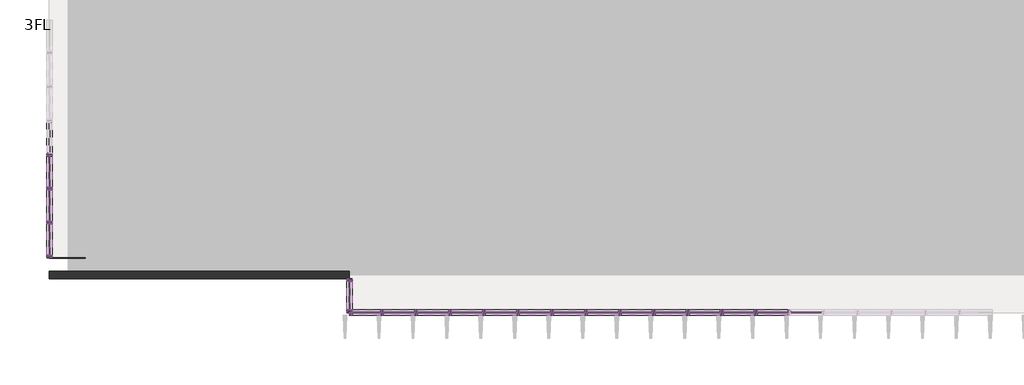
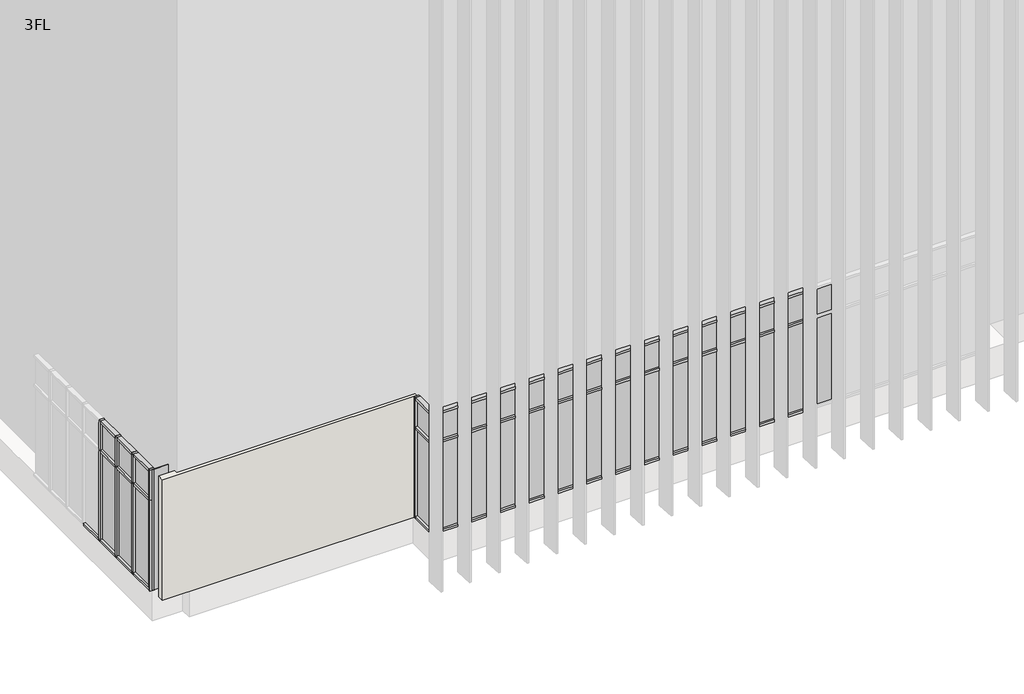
# One storey, part 1 of 5: 91 members, 38 plates, 1 wall.
"""IFC4 building model written with IfcOpenShell, lengths in millimetres."""

from ifc_helpers import new_model, si_unit, frame, origin, place, context, project, spatial, polyline, outline, extrude, transform, mapped, element, save
from components import member_70x150_cdd4dcf9, member_70x150_9a135ce4, member_70x150_66cf63de, member_70x150_26475b18, member_70x150_ad4265bc, member_70x150_e0eddb57, member_70x150_1b280ac3, member_70x150_76429c73, plate_d1366ea1, plate_ab860a3c, plate_28587fd3, plate_4b01b467, plate_396bcf3c, plate_83f08a3e

model = new_model("IFC4")

# Units and contexts
model_context = context("Model", 3, world=origin())
ifc_project = project(units=[si_unit("LENGTHUNIT", "METRE", prefix="MILLI")], contexts=[model_context])

# Site, building, storey
site = spatial("IfcSite", under=ifc_project)
building = spatial("IfcBuilding", under=site)
storey = spatial("IfcBuildingStorey", under=building, Name="3FL", Elevation=8600.0)

# Members
placement = place(None, origin())
member_70x150_shape = member_70x150_cdd4dcf9(model_context)
element("IfcMember", 1, ObjectType="長方形のマリオン : 70x150", at=placement, inside=storey, context=model_context, shape_type="MappedRepresentation", body=[
    mapped(member_70x150_shape, transform((-20530.9784025, -4550.3131013, 8600.0), x_axis=(-1.0, 0.0, 0.0), y_axis=(0.0, 1.0, 0.0), z_axis=(0.0, 0.0, -1.0))),
])
element("IfcMember", 2, ObjectType="長方形のマリオン : 70x150", at=placement, inside=storey, context=model_context, shape_type="MappedRepresentation", body=[
    mapped(member_70x150_shape, transform((-19630.9784025, -4550.3131013, 8600.0), x_axis=(-1.0, 0.0, 0.0), y_axis=(0.0, 1.0, 0.0), z_axis=(0.0, 0.0, -1.0))),
])
element("IfcMember", 3, ObjectType="長方形のマリオン : 70x150", at=placement, inside=storey, context=model_context, shape_type="MappedRepresentation", body=[
    mapped(member_70x150_shape, transform((-18730.9784025, -4550.3131013, 8600.0), x_axis=(-1.0, 0.0, 0.0), y_axis=(0.0, 1.0, 0.0), z_axis=(0.0, 0.0, -1.0))),
])
element("IfcMember", 4, ObjectType="長方形のマリオン : 70x150", at=placement, inside=storey, context=model_context, shape_type="MappedRepresentation", body=[
    mapped(member_70x150_shape, transform((-17830.9784025, -4550.3131013, 8600.0), x_axis=(-1.0, 0.0, 0.0), y_axis=(0.0, 1.0, 0.0), z_axis=(0.0, 0.0, -1.0))),
])
element("IfcMember", 5, ObjectType="長方形のマリオン : 70x150", at=placement, inside=storey, context=model_context, shape_type="MappedRepresentation", body=[
    mapped(member_70x150_shape, transform((-16930.9784025, -4550.3131013, 8600.0), x_axis=(-1.0, 0.0, 0.0), y_axis=(0.0, 1.0, 0.0), z_axis=(0.0, 0.0, -1.0))),
])
element("IfcMember", 6, ObjectType="長方形のマリオン : 70x150", at=placement, inside=storey, context=model_context, shape_type="MappedRepresentation", body=[
    mapped(member_70x150_shape, transform((-16030.9784025, -4550.3131013, 8600.0), x_axis=(-1.0, 0.0, 0.0), y_axis=(0.0, 1.0, 0.0), z_axis=(0.0, 0.0, -1.0))),
])
element("IfcMember", 7, ObjectType="長方形のマリオン : 70x150", at=placement, inside=storey, context=model_context, shape_type="MappedRepresentation", body=[
    mapped(member_70x150_shape, transform((-15130.9784025, -4550.3131013, 8600.0), x_axis=(-1.0, 0.0, 0.0), y_axis=(0.0, 1.0, 0.0), z_axis=(0.0, 0.0, -1.0))),
])
element("IfcMember", 8, ObjectType="長方形のマリオン : 70x150", at=placement, inside=storey, context=model_context, shape_type="MappedRepresentation", body=[
    mapped(member_70x150_shape, transform((-14230.9784025, -4550.3131013, 8600.0), x_axis=(-1.0, 0.0, 0.0), y_axis=(0.0, 1.0, 0.0), z_axis=(0.0, 0.0, -1.0))),
])
element("IfcMember", 9, ObjectType="長方形のマリオン : 70x150", at=placement, inside=storey, context=model_context, shape_type="MappedRepresentation", body=[
    mapped(member_70x150_shape, transform((-13330.9784025, -4550.3131013, 8600.0), x_axis=(-1.0, 0.0, 0.0), y_axis=(0.0, 1.0, 0.0), z_axis=(0.0, 0.0, -1.0))),
])
element("IfcMember", 10, ObjectType="長方形のマリオン : 70x150", at=placement, inside=storey, context=model_context, shape_type="MappedRepresentation", body=[
    mapped(member_70x150_shape, transform((-12430.9784025, -4550.3131013, 8600.0), x_axis=(-1.0, 0.0, 0.0), y_axis=(0.0, 1.0, 0.0), z_axis=(0.0, 0.0, -1.0))),
])
element("IfcMember", 11, ObjectType="長方形のマリオン : 70x150", at=placement, inside=storey, context=model_context, shape_type="MappedRepresentation", body=[
    mapped(member_70x150_shape, transform((-11530.9784025, -4550.3131013, 8600.0), x_axis=(-1.0, 0.0, 0.0), y_axis=(0.0, 1.0, 0.0), z_axis=(0.0, 0.0, -1.0))),
])
element("IfcMember", 12, ObjectType="長方形のマリオン : 70x150", at=placement, inside=storey, context=model_context, shape_type="MappedRepresentation", body=[
    mapped(member_70x150_shape, transform((-10630.9784025, -4550.3131013, 8600.0), x_axis=(-1.0, 0.0, 0.0), y_axis=(0.0, 1.0, 0.0), z_axis=(0.0, 0.0, -1.0))),
])
element("IfcMember", 13, ObjectType="長方形のマリオン : 70x150", at=placement, inside=storey, context=model_context, shape_type="MappedRepresentation", body=[
    mapped(member_70x150_shape, transform((-29345.9784025, -365.3131013, 8600.0), x_axis=(0.0, 1.0, 0.0), y_axis=(1.0, 0.0, 0.0), z_axis=(0.0, 0.0, -1.0))),
])
element("IfcMember", 14, ObjectType="長方形のマリオン : 70x150", at=placement, inside=storey, context=model_context, shape_type="MappedRepresentation", body=[
    mapped(member_70x150_shape, transform((-29345.9784025, -1265.3131013, 8600.0), x_axis=(0.0, 1.0, 0.0), y_axis=(1.0, 0.0, 0.0), z_axis=(0.0, 0.0, -1.0))),
])
element("IfcMember", 15, ObjectType="長方形のマリオン : 70x150", at=placement, inside=storey, context=model_context, shape_type="MappedRepresentation", body=[
    mapped(member_70x150_shape, transform((-29345.9784025, -2165.3131013, 8600.0), x_axis=(0.0, 1.0, 0.0), y_axis=(1.0, 0.0, 0.0), z_axis=(0.0, 0.0, -1.0))),
])
member_70x150_2_shape = member_70x150_9a135ce4(model_context)
element("IfcMember", 16, ObjectType="長方形のマリオン : 70x150", at=placement, inside=storey, context=model_context, shape_type="MappedRepresentation", body=[
    mapped(member_70x150_2_shape, transform((-21325.9784025, -4550.3131013, 12600.0), x_axis=(0.0, 0.0, 1.0), y_axis=(0.0, 1.0, 0.0), z_axis=(-1.0, 0.0, 0.0))),
])
element("IfcMember", 17, ObjectType="長方形のマリオン : 70x150", at=placement, inside=storey, context=model_context, shape_type="MappedRepresentation", body=[
    mapped(member_70x150_2_shape, transform((-21395.9784025, -3720.3131013, 12600.0), x_axis=(0.0, 0.0, 1.0), y_axis=(1.0, 0.0, 0.0), z_axis=(0.0, 1.0, 0.0))),
])
member_70x150_3_shape = member_70x150_66cf63de(model_context)
element("IfcMember", 18, ObjectType="長方形のマリオン : 70x150", at=placement, inside=storey, context=model_context, shape_type="MappedRepresentation", body=[
    mapped(member_70x150_3_shape, transform((-9765.9784025, -4550.3131013, 8600.0), x_axis=(0.0, 0.0, -1.0), y_axis=(0.0, 1.0, 0.0), z_axis=(1.0, 0.0, 0.0))),
])
element("IfcMember", 19, ObjectType="長方形のマリオン : 70x150", at=placement, inside=storey, context=model_context, shape_type="MappedRepresentation", body=[
    mapped(member_70x150_3_shape, transform((-11565.9784025, -4550.3131013, 8600.0), x_axis=(0.0, 0.0, -1.0), y_axis=(0.0, 1.0, 0.0), z_axis=(1.0, 0.0, 0.0))),
])
element("IfcMember", 20, ObjectType="長方形のマリオン : 70x150", at=placement, inside=storey, context=model_context, shape_type="MappedRepresentation", body=[
    mapped(member_70x150_3_shape, transform((-14265.9784025, -4550.3131013, 8600.0), x_axis=(0.0, 0.0, -1.0), y_axis=(0.0, 1.0, 0.0), z_axis=(1.0, 0.0, 0.0))),
])
element("IfcMember", 21, ObjectType="長方形のマリオン : 70x150", at=placement, inside=storey, context=model_context, shape_type="MappedRepresentation", body=[
    mapped(member_70x150_3_shape, transform((-15165.9784025, -4550.3131013, 8600.0), x_axis=(0.0, 0.0, -1.0), y_axis=(0.0, 1.0, 0.0), z_axis=(1.0, 0.0, 0.0))),
])
element("IfcMember", 22, ObjectType="長方形のマリオン : 70x150", at=placement, inside=storey, context=model_context, shape_type="MappedRepresentation", body=[
    mapped(member_70x150_3_shape, transform((-10665.9784025, -4550.3131013, 8600.0), x_axis=(0.0, 0.0, -1.0), y_axis=(0.0, 1.0, 0.0), z_axis=(1.0, 0.0, 0.0))),
])
element("IfcMember", 23, ObjectType="長方形のマリオン : 70x150", at=placement, inside=storey, context=model_context, shape_type="MappedRepresentation", body=[
    mapped(member_70x150_3_shape, transform((-13365.9784025, -4550.3131013, 8600.0), x_axis=(0.0, 0.0, -1.0), y_axis=(0.0, 1.0, 0.0), z_axis=(1.0, 0.0, 0.0))),
])
element("IfcMember", 24, ObjectType="長方形のマリオン : 70x150", at=placement, inside=storey, context=model_context, shape_type="MappedRepresentation", body=[
    mapped(member_70x150_3_shape, transform((-16065.9784025, -4550.3131013, 8600.0), x_axis=(0.0, 0.0, -1.0), y_axis=(0.0, 1.0, 0.0), z_axis=(1.0, 0.0, 0.0))),
])
element("IfcMember", 25, ObjectType="長方形のマリオン : 70x150", at=placement, inside=storey, context=model_context, shape_type="MappedRepresentation", body=[
    mapped(member_70x150_3_shape, transform((-12465.9784025, -4550.3131013, 8600.0), x_axis=(0.0, 0.0, -1.0), y_axis=(0.0, 1.0, 0.0), z_axis=(1.0, 0.0, 0.0))),
])
element("IfcMember", 26, ObjectType="長方形のマリオン : 70x150", at=placement, inside=storey, context=model_context, shape_type="MappedRepresentation", body=[
    mapped(member_70x150_3_shape, transform((-19665.9784025, -4550.3131013, 8600.0), x_axis=(0.0, 0.0, -1.0), y_axis=(0.0, 1.0, 0.0), z_axis=(1.0, 0.0, 0.0))),
])
element("IfcMember", 27, ObjectType="長方形のマリオン : 70x150", at=placement, inside=storey, context=model_context, shape_type="MappedRepresentation", body=[
    mapped(member_70x150_3_shape, transform((-18765.9784025, -4550.3131013, 8600.0), x_axis=(0.0, 0.0, -1.0), y_axis=(0.0, 1.0, 0.0), z_axis=(1.0, 0.0, 0.0))),
])
element("IfcMember", 28, ObjectType="長方形のマリオン : 70x150", at=placement, inside=storey, context=model_context, shape_type="MappedRepresentation", body=[
    mapped(member_70x150_3_shape, transform((-17865.9784025, -4550.3131013, 8600.0), x_axis=(0.0, 0.0, -1.0), y_axis=(0.0, 1.0, 0.0), z_axis=(1.0, 0.0, 0.0))),
])
element("IfcMember", 29, ObjectType="長方形のマリオン : 70x150", at=placement, inside=storey, context=model_context, shape_type="MappedRepresentation", body=[
    mapped(member_70x150_3_shape, transform((-16965.9784025, -4550.3131013, 8600.0), x_axis=(0.0, 0.0, -1.0), y_axis=(0.0, 1.0, 0.0), z_axis=(1.0, 0.0, 0.0))),
])
element("IfcMember", 30, ObjectType="長方形のマリオン : 70x150", at=placement, inside=storey, context=model_context, shape_type="MappedRepresentation", body=[
    mapped(member_70x150_3_shape, transform((-29345.9784025, -3030.3131013, 8600.0), x_axis=(0.0, 0.0, -1.0), y_axis=(1.0, 0.0, 0.0), z_axis=(0.0, -1.0, 0.0))),
])
element("IfcMember", 31, ObjectType="長方形のマリオン : 70x150", at=placement, inside=storey, context=model_context, shape_type="MappedRepresentation", body=[
    mapped(member_70x150_3_shape, transform((-29345.9784025, -330.3131013, 8600.0), x_axis=(0.0, 0.0, -1.0), y_axis=(1.0, 0.0, 0.0), z_axis=(0.0, -1.0, 0.0))),
])
element("IfcMember", 32, ObjectType="長方形のマリオン : 70x150", at=placement, inside=storey, context=model_context, shape_type="MappedRepresentation", body=[
    mapped(member_70x150_3_shape, transform((-29345.9784025, -1230.3131013, 8600.0), x_axis=(0.0, 0.0, -1.0), y_axis=(1.0, 0.0, 0.0), z_axis=(0.0, -1.0, 0.0))),
])
element("IfcMember", 33, ObjectType="長方形のマリオン : 70x150", at=placement, inside=storey, context=model_context, shape_type="MappedRepresentation", body=[
    mapped(member_70x150_3_shape, transform((-29345.9784025, -2130.3131013, 8600.0), x_axis=(0.0, 0.0, -1.0), y_axis=(1.0, 0.0, 0.0), z_axis=(0.0, -1.0, 0.0))),
])
element("IfcMember", 34, ObjectType="長方形のマリオン : 70x150", at=placement, inside=storey, context=model_context, shape_type="MappedRepresentation", body=[
    mapped(member_70x150_3_shape, transform((-20495.9784025, -4550.3131013, 12600.0), x_axis=(0.0, 0.0, 1.0), y_axis=(0.0, 1.0, 0.0), z_axis=(-1.0, 0.0, 0.0))),
])
element("IfcMember", 35, ObjectType="長方形のマリオン : 70x150", at=placement, inside=storey, context=model_context, shape_type="MappedRepresentation", body=[
    mapped(member_70x150_3_shape, transform((-19595.9784025, -4550.3131013, 12600.0), x_axis=(0.0, 0.0, 1.0), y_axis=(0.0, 1.0, 0.0), z_axis=(-1.0, 0.0, 0.0))),
])
element("IfcMember", 36, ObjectType="長方形のマリオン : 70x150", at=placement, inside=storey, context=model_context, shape_type="MappedRepresentation", body=[
    mapped(member_70x150_3_shape, transform((-18695.9784025, -4550.3131013, 12600.0), x_axis=(0.0, 0.0, 1.0), y_axis=(0.0, 1.0, 0.0), z_axis=(-1.0, 0.0, 0.0))),
])
element("IfcMember", 37, ObjectType="長方形のマリオン : 70x150", at=placement, inside=storey, context=model_context, shape_type="MappedRepresentation", body=[
    mapped(member_70x150_3_shape, transform((-17795.9784025, -4550.3131013, 12600.0), x_axis=(0.0, 0.0, 1.0), y_axis=(0.0, 1.0, 0.0), z_axis=(-1.0, 0.0, 0.0))),
])
element("IfcMember", 38, ObjectType="長方形のマリオン : 70x150", at=placement, inside=storey, context=model_context, shape_type="MappedRepresentation", body=[
    mapped(member_70x150_3_shape, transform((-16895.9784025, -4550.3131013, 12600.0), x_axis=(0.0, 0.0, 1.0), y_axis=(0.0, 1.0, 0.0), z_axis=(-1.0, 0.0, 0.0))),
])
element("IfcMember", 39, ObjectType="長方形のマリオン : 70x150", at=placement, inside=storey, context=model_context, shape_type="MappedRepresentation", body=[
    mapped(member_70x150_3_shape, transform((-15995.9784025, -4550.3131013, 12600.0), x_axis=(0.0, 0.0, 1.0), y_axis=(0.0, 1.0, 0.0), z_axis=(-1.0, 0.0, 0.0))),
])
element("IfcMember", 40, ObjectType="長方形のマリオン : 70x150", at=placement, inside=storey, context=model_context, shape_type="MappedRepresentation", body=[
    mapped(member_70x150_3_shape, transform((-15095.9784025, -4550.3131013, 12600.0), x_axis=(0.0, 0.0, 1.0), y_axis=(0.0, 1.0, 0.0), z_axis=(-1.0, 0.0, 0.0))),
])
element("IfcMember", 41, ObjectType="長方形のマリオン : 70x150", at=placement, inside=storey, context=model_context, shape_type="MappedRepresentation", body=[
    mapped(member_70x150_3_shape, transform((-14195.9784025, -4550.3131013, 12600.0), x_axis=(0.0, 0.0, 1.0), y_axis=(0.0, 1.0, 0.0), z_axis=(-1.0, 0.0, 0.0))),
])
element("IfcMember", 42, ObjectType="長方形のマリオン : 70x150", at=placement, inside=storey, context=model_context, shape_type="MappedRepresentation", body=[
    mapped(member_70x150_3_shape, transform((-13295.9784025, -4550.3131013, 12600.0), x_axis=(0.0, 0.0, 1.0), y_axis=(0.0, 1.0, 0.0), z_axis=(-1.0, 0.0, 0.0))),
])
element("IfcMember", 43, ObjectType="長方形のマリオン : 70x150", at=placement, inside=storey, context=model_context, shape_type="MappedRepresentation", body=[
    mapped(member_70x150_3_shape, transform((-12395.9784025, -4550.3131013, 12600.0), x_axis=(0.0, 0.0, 1.0), y_axis=(0.0, 1.0, 0.0), z_axis=(-1.0, 0.0, 0.0))),
])
element("IfcMember", 44, ObjectType="長方形のマリオン : 70x150", at=placement, inside=storey, context=model_context, shape_type="MappedRepresentation", body=[
    mapped(member_70x150_3_shape, transform((-11495.9784025, -4550.3131013, 12600.0), x_axis=(0.0, 0.0, 1.0), y_axis=(0.0, 1.0, 0.0), z_axis=(-1.0, 0.0, 0.0))),
])
element("IfcMember", 45, ObjectType="長方形のマリオン : 70x150", at=placement, inside=storey, context=model_context, shape_type="MappedRepresentation", body=[
    mapped(member_70x150_3_shape, transform((-10595.9784025, -4550.3131013, 12600.0), x_axis=(0.0, 0.0, 1.0), y_axis=(0.0, 1.0, 0.0), z_axis=(-1.0, 0.0, 0.0))),
])
element("IfcMember", 46, ObjectType="長方形のマリオン : 70x150", at=placement, inside=storey, context=model_context, shape_type="MappedRepresentation", body=[
    mapped(member_70x150_3_shape, transform((-29345.9784025, -400.3131013, 12600.0), x_axis=(0.0, 0.0, 1.0), y_axis=(1.0, 0.0, 0.0), z_axis=(0.0, 1.0, 0.0))),
])
element("IfcMember", 47, ObjectType="長方形のマリオン : 70x150", at=placement, inside=storey, context=model_context, shape_type="MappedRepresentation", body=[
    mapped(member_70x150_3_shape, transform((-29345.9784025, -1300.3131013, 12600.0), x_axis=(0.0, 0.0, 1.0), y_axis=(1.0, 0.0, 0.0), z_axis=(0.0, 1.0, 0.0))),
])
element("IfcMember", 48, ObjectType="長方形のマリオン : 70x150", at=placement, inside=storey, context=model_context, shape_type="MappedRepresentation", body=[
    mapped(member_70x150_3_shape, transform((-29345.9784025, -2200.3131013, 12600.0), x_axis=(0.0, 0.0, 1.0), y_axis=(1.0, 0.0, 0.0), z_axis=(0.0, 1.0, 0.0))),
])
element("IfcMember", 49, ObjectType="長方形のマリオン : 70x150", at=placement, inside=storey, context=model_context, shape_type="MappedRepresentation", body=[
    mapped(member_70x150_2_shape, transform((-20565.9784025, -4550.3131013, 8600.0), x_axis=(0.0, 0.0, -1.0), y_axis=(0.0, 1.0, 0.0), z_axis=(1.0, 0.0, 0.0))),
])
element("IfcMember", 50, ObjectType="長方形のマリオン : 70x150", at=placement, inside=storey, context=model_context, shape_type="MappedRepresentation", body=[
    mapped(member_70x150_2_shape, transform((-21395.9784025, -4480.3131013, 8600.0), x_axis=(0.0, 0.0, -1.0), y_axis=(1.0, 0.0, 0.0), z_axis=(0.0, -1.0, 0.0))),
])
member_70x150_4_shape = member_70x150_26475b18(model_context)
element("IfcMember", 51, ObjectType="長方形のマリオン : 70x150", at=placement, inside=storey, context=model_context, shape_type="MappedRepresentation", body=[
    mapped(member_70x150_4_shape, transform((-20530.9784025, -4550.3131013, 11600.0), x_axis=(-1.0, 0.0, 0.0), y_axis=(0.0, 1.0, 0.0), z_axis=(0.0, 0.0, -1.0))),
])
element("IfcMember", 52, ObjectType="長方形のマリオン : 70x150", at=placement, inside=storey, context=model_context, shape_type="MappedRepresentation", body=[
    mapped(member_70x150_4_shape, transform((-19630.9784025, -4550.3131013, 11600.0), x_axis=(-1.0, 0.0, 0.0), y_axis=(0.0, 1.0, 0.0), z_axis=(0.0, 0.0, -1.0))),
])
element("IfcMember", 53, ObjectType="長方形のマリオン : 70x150", at=placement, inside=storey, context=model_context, shape_type="MappedRepresentation", body=[
    mapped(member_70x150_4_shape, transform((-18730.9784025, -4550.3131013, 11600.0), x_axis=(-1.0, 0.0, 0.0), y_axis=(0.0, 1.0, 0.0), z_axis=(0.0, 0.0, -1.0))),
])
element("IfcMember", 54, ObjectType="長方形のマリオン : 70x150", at=placement, inside=storey, context=model_context, shape_type="MappedRepresentation", body=[
    mapped(member_70x150_4_shape, transform((-17830.9784025, -4550.3131013, 11600.0), x_axis=(-1.0, 0.0, 0.0), y_axis=(0.0, 1.0, 0.0), z_axis=(0.0, 0.0, -1.0))),
])
element("IfcMember", 55, ObjectType="長方形のマリオン : 70x150", at=placement, inside=storey, context=model_context, shape_type="MappedRepresentation", body=[
    mapped(member_70x150_4_shape, transform((-16930.9784025, -4550.3131013, 11600.0), x_axis=(-1.0, 0.0, 0.0), y_axis=(0.0, 1.0, 0.0), z_axis=(0.0, 0.0, -1.0))),
])
element("IfcMember", 56, ObjectType="長方形のマリオン : 70x150", at=placement, inside=storey, context=model_context, shape_type="MappedRepresentation", body=[
    mapped(member_70x150_4_shape, transform((-16030.9784025, -4550.3131013, 11600.0), x_axis=(-1.0, 0.0, 0.0), y_axis=(0.0, 1.0, 0.0), z_axis=(0.0, 0.0, -1.0))),
])
element("IfcMember", 57, ObjectType="長方形のマリオン : 70x150", at=placement, inside=storey, context=model_context, shape_type="MappedRepresentation", body=[
    mapped(member_70x150_4_shape, transform((-15130.9784025, -4550.3131013, 11600.0), x_axis=(-1.0, 0.0, 0.0), y_axis=(0.0, 1.0, 0.0), z_axis=(0.0, 0.0, -1.0))),
])
element("IfcMember", 58, ObjectType="長方形のマリオン : 70x150", at=placement, inside=storey, context=model_context, shape_type="MappedRepresentation", body=[
    mapped(member_70x150_4_shape, transform((-14230.9784025, -4550.3131013, 11600.0), x_axis=(-1.0, 0.0, 0.0), y_axis=(0.0, 1.0, 0.0), z_axis=(0.0, 0.0, -1.0))),
])
element("IfcMember", 59, ObjectType="長方形のマリオン : 70x150", at=placement, inside=storey, context=model_context, shape_type="MappedRepresentation", body=[
    mapped(member_70x150_4_shape, transform((-13330.9784025, -4550.3131013, 11600.0), x_axis=(-1.0, 0.0, 0.0), y_axis=(0.0, 1.0, 0.0), z_axis=(0.0, 0.0, -1.0))),
])
element("IfcMember", 60, ObjectType="長方形のマリオン : 70x150", at=placement, inside=storey, context=model_context, shape_type="MappedRepresentation", body=[
    mapped(member_70x150_4_shape, transform((-12430.9784025, -4550.3131013, 11600.0), x_axis=(-1.0, 0.0, 0.0), y_axis=(0.0, 1.0, 0.0), z_axis=(0.0, 0.0, -1.0))),
])
element("IfcMember", 61, ObjectType="長方形のマリオン : 70x150", at=placement, inside=storey, context=model_context, shape_type="MappedRepresentation", body=[
    mapped(member_70x150_4_shape, transform((-11530.9784025, -4550.3131013, 11600.0), x_axis=(-1.0, 0.0, 0.0), y_axis=(0.0, 1.0, 0.0), z_axis=(0.0, 0.0, -1.0))),
])
element("IfcMember", 62, ObjectType="長方形のマリオン : 70x150", at=placement, inside=storey, context=model_context, shape_type="MappedRepresentation", body=[
    mapped(member_70x150_4_shape, transform((-10630.9784025, -4550.3131013, 11600.0), x_axis=(-1.0, 0.0, 0.0), y_axis=(0.0, 1.0, 0.0), z_axis=(0.0, 0.0, -1.0))),
])
element("IfcMember", 63, ObjectType="長方形のマリオン : 70x150", at=placement, inside=storey, context=model_context, shape_type="MappedRepresentation", body=[
    mapped(member_70x150_4_shape, transform((-9730.9784025, -4550.3131013, 11600.0), x_axis=(-1.0, 0.0, 0.0), y_axis=(0.0, 1.0, 0.0), z_axis=(0.0, 0.0, -1.0))),
])
element("IfcMember", 64, ObjectType="長方形のマリオン : 70x150", at=placement, inside=storey, context=model_context, shape_type="MappedRepresentation", body=[
    mapped(member_70x150_4_shape, transform((-29345.9784025, -365.3131013, 11600.0), x_axis=(0.0, 1.0, 0.0), y_axis=(1.0, 0.0, 0.0), z_axis=(0.0, 0.0, -1.0))),
])
element("IfcMember", 65, ObjectType="長方形のマリオン : 70x150", at=placement, inside=storey, context=model_context, shape_type="MappedRepresentation", body=[
    mapped(member_70x150_4_shape, transform((-29345.9784025, -1265.3131013, 11600.0), x_axis=(0.0, 1.0, 0.0), y_axis=(1.0, 0.0, 0.0), z_axis=(0.0, 0.0, -1.0))),
])
element("IfcMember", 66, ObjectType="長方形のマリオン : 70x150", at=placement, inside=storey, context=model_context, shape_type="MappedRepresentation", body=[
    mapped(member_70x150_4_shape, transform((-29345.9784025, -2165.3131013, 11600.0), x_axis=(0.0, 1.0, 0.0), y_axis=(1.0, 0.0, 0.0), z_axis=(0.0, 0.0, -1.0))),
])
member_70x150_5_shape = member_70x150_ad4265bc(model_context)
element("IfcMember", 67, ObjectType="長方形のマリオン : 70x150", at=placement, inside=storey, context=model_context, shape_type="MappedRepresentation", body=[
    mapped(member_70x150_5_shape, transform((-20495.9784025, -4550.3131013, 11600.0), x_axis=(0.0, 0.0, 1.0), y_axis=(0.0, 1.0, 0.0), z_axis=(-1.0, 0.0, 0.0))),
])
element("IfcMember", 68, ObjectType="長方形のマリオン : 70x150", at=placement, inside=storey, context=model_context, shape_type="MappedRepresentation", body=[
    mapped(member_70x150_5_shape, transform((-19595.9784025, -4550.3131013, 11600.0), x_axis=(0.0, 0.0, 1.0), y_axis=(0.0, 1.0, 0.0), z_axis=(-1.0, 0.0, 0.0))),
])
element("IfcMember", 69, ObjectType="長方形のマリオン : 70x150", at=placement, inside=storey, context=model_context, shape_type="MappedRepresentation", body=[
    mapped(member_70x150_5_shape, transform((-18695.9784025, -4550.3131013, 11600.0), x_axis=(0.0, 0.0, 1.0), y_axis=(0.0, 1.0, 0.0), z_axis=(-1.0, 0.0, 0.0))),
])
element("IfcMember", 70, ObjectType="長方形のマリオン : 70x150", at=placement, inside=storey, context=model_context, shape_type="MappedRepresentation", body=[
    mapped(member_70x150_5_shape, transform((-17795.9784025, -4550.3131013, 11600.0), x_axis=(0.0, 0.0, 1.0), y_axis=(0.0, 1.0, 0.0), z_axis=(-1.0, 0.0, 0.0))),
])
element("IfcMember", 71, ObjectType="長方形のマリオン : 70x150", at=placement, inside=storey, context=model_context, shape_type="MappedRepresentation", body=[
    mapped(member_70x150_5_shape, transform((-16895.9784025, -4550.3131013, 11600.0), x_axis=(0.0, 0.0, 1.0), y_axis=(0.0, 1.0, 0.0), z_axis=(-1.0, 0.0, 0.0))),
])
element("IfcMember", 72, ObjectType="長方形のマリオン : 70x150", at=placement, inside=storey, context=model_context, shape_type="MappedRepresentation", body=[
    mapped(member_70x150_5_shape, transform((-15995.9784025, -4550.3131013, 11600.0), x_axis=(0.0, 0.0, 1.0), y_axis=(0.0, 1.0, 0.0), z_axis=(-1.0, 0.0, 0.0))),
])
element("IfcMember", 73, ObjectType="長方形のマリオン : 70x150", at=placement, inside=storey, context=model_context, shape_type="MappedRepresentation", body=[
    mapped(member_70x150_5_shape, transform((-15095.9784025, -4550.3131013, 11600.0), x_axis=(0.0, 0.0, 1.0), y_axis=(0.0, 1.0, 0.0), z_axis=(-1.0, 0.0, 0.0))),
])
element("IfcMember", 74, ObjectType="長方形のマリオン : 70x150", at=placement, inside=storey, context=model_context, shape_type="MappedRepresentation", body=[
    mapped(member_70x150_5_shape, transform((-14195.9784025, -4550.3131013, 11600.0), x_axis=(0.0, 0.0, 1.0), y_axis=(0.0, 1.0, 0.0), z_axis=(-1.0, 0.0, 0.0))),
])
element("IfcMember", 75, ObjectType="長方形のマリオン : 70x150", at=placement, inside=storey, context=model_context, shape_type="MappedRepresentation", body=[
    mapped(member_70x150_5_shape, transform((-13295.9784025, -4550.3131013, 11600.0), x_axis=(0.0, 0.0, 1.0), y_axis=(0.0, 1.0, 0.0), z_axis=(-1.0, 0.0, 0.0))),
])
element("IfcMember", 76, ObjectType="長方形のマリオン : 70x150", at=placement, inside=storey, context=model_context, shape_type="MappedRepresentation", body=[
    mapped(member_70x150_5_shape, transform((-12395.9784025, -4550.3131013, 11600.0), x_axis=(0.0, 0.0, 1.0), y_axis=(0.0, 1.0, 0.0), z_axis=(-1.0, 0.0, 0.0))),
])
element("IfcMember", 77, ObjectType="長方形のマリオン : 70x150", at=placement, inside=storey, context=model_context, shape_type="MappedRepresentation", body=[
    mapped(member_70x150_5_shape, transform((-11495.9784025, -4550.3131013, 11600.0), x_axis=(0.0, 0.0, 1.0), y_axis=(0.0, 1.0, 0.0), z_axis=(-1.0, 0.0, 0.0))),
])
element("IfcMember", 78, ObjectType="長方形のマリオン : 70x150", at=placement, inside=storey, context=model_context, shape_type="MappedRepresentation", body=[
    mapped(member_70x150_5_shape, transform((-10595.9784025, -4550.3131013, 11600.0), x_axis=(0.0, 0.0, 1.0), y_axis=(0.0, 1.0, 0.0), z_axis=(-1.0, 0.0, 0.0))),
])
element("IfcMember", 79, ObjectType="長方形のマリオン : 70x150", at=placement, inside=storey, context=model_context, shape_type="MappedRepresentation", body=[
    mapped(member_70x150_5_shape, transform((-29345.9784025, -1300.3131013, 11600.0), x_axis=(0.0, 0.0, 1.0), y_axis=(1.0, 0.0, 0.0), z_axis=(0.0, 1.0, 0.0))),
])
element("IfcMember", 80, ObjectType="長方形のマリオン : 70x150", at=placement, inside=storey, context=model_context, shape_type="MappedRepresentation", body=[
    mapped(member_70x150_5_shape, transform((-29345.9784025, -2200.3131013, 11600.0), x_axis=(0.0, 0.0, 1.0), y_axis=(1.0, 0.0, 0.0), z_axis=(0.0, 1.0, 0.0))),
])
element("IfcMember", 81, ObjectType="長方形のマリオン : 70x150", at=placement, inside=storey, context=model_context, shape_type="MappedRepresentation", body=[
    mapped(member_70x150_5_shape, transform((-29345.9784025, -400.3131013, 11600.0), x_axis=(0.0, 0.0, 1.0), y_axis=(1.0, 0.0, 0.0), z_axis=(0.0, 1.0, 0.0))),
])
member_70x150_6_shape = member_70x150_e0eddb57(model_context)
element("IfcMember", 82, ObjectType="長方形のマリオン : 70x150", at=placement, inside=storey, context=model_context, shape_type="MappedRepresentation", body=[
    mapped(member_70x150_6_shape, transform((-21325.9784025, -4550.3131013, 11600.0), x_axis=(0.0, 0.0, 1.0), y_axis=(0.0, 1.0, 0.0), z_axis=(-1.0, 0.0, 0.0))),
])
element("IfcMember", 83, ObjectType="長方形のマリオン : 70x150", at=placement, inside=storey, context=model_context, shape_type="MappedRepresentation", body=[
    mapped(member_70x150_6_shape, transform((-21395.9784025, -3720.3131013, 11600.0), x_axis=(0.0, 0.0, 1.0), y_axis=(1.0, 0.0, 0.0), z_axis=(0.0, 1.0, 0.0))),
])
member_70x150_7_shape = member_70x150_1b280ac3(model_context)
element("IfcMember", 84, ObjectType="長方形のマリオン : 70x150", at=placement, inside=storey, context=model_context, shape_type="MappedRepresentation", body=[
    mapped(member_70x150_7_shape, transform((-21395.9784025, -4550.3131013, 8600.0), x_axis=(-1.0, 0.0, 0.0), y_axis=(0.0, 1.0, 0.0), z_axis=(0.0, 0.0, -1.0))),
])
element("IfcMember", 85, ObjectType="長方形のマリオン : 70x150", at=placement, inside=storey, context=model_context, shape_type="MappedRepresentation", body=[
    mapped(member_70x150_7_shape, transform((-21395.9784025, -3650.3131013, 8600.0), x_axis=(0.0, 1.0, 0.0), y_axis=(1.0, 0.0, 0.0), z_axis=(0.0, 0.0, -1.0))),
])
member_70x150_8_shape = member_70x150_76429c73(model_context)
element("IfcMember", 86, ObjectType="長方形のマリオン : 70x150", at=placement, inside=storey, context=model_context, shape_type="MappedRepresentation", body=[
    mapped(member_70x150_8_shape, transform((-21395.9784025, -4550.3131013, 12600.0), x_axis=(0.0, -1.0, 0.0), y_axis=(1.0, 0.0, 0.0), z_axis=(0.0, 0.0, 1.0))),
])
element("IfcMember", 87, ObjectType="長方形のマリオン : 70x150", at=placement, inside=storey, context=model_context, shape_type="MappedRepresentation", body=[
    mapped(member_70x150_8_shape, transform((-29345.9784025, -3100.3131013, 12600.0), x_axis=(0.0, -1.0, 0.0), y_axis=(1.0, 0.0, 0.0), z_axis=(0.0, 0.0, 1.0))),
])
element("IfcMember", 88, ObjectType="長方形のマリオン : 70x150", at=placement, inside=storey, context=model_context, shape_type="MappedRepresentation", body=[
    mapped(member_70x150_8_shape, transform((-21395.9784025, -4550.3131013, 11600.0), x_axis=(-1.0, 0.0, 0.0), y_axis=(0.0, 1.0, 0.0), z_axis=(0.0, 0.0, -1.0))),
])
element("IfcMember", 89, ObjectType="長方形のマリオン : 70x150", at=placement, inside=storey, context=model_context, shape_type="MappedRepresentation", body=[
    mapped(member_70x150_8_shape, transform((-21395.9784025, -3650.3131013, 11600.0), x_axis=(0.0, 1.0, 0.0), y_axis=(1.0, 0.0, 0.0), z_axis=(0.0, 0.0, -1.0))),
])
element("IfcMember", 90, ObjectType="長方形のマリオン : 70x150", at=placement, inside=storey, context=model_context, shape_type="MappedRepresentation", body=[
    mapped(member_70x150_7_shape, transform((-21395.9784025, -4550.3131013, 11600.0), x_axis=(0.0, -1.0, 0.0), y_axis=(1.0, 0.0, 0.0), z_axis=(0.0, 0.0, 1.0))),
])
element("IfcMember", 91, ObjectType="長方形のマリオン : 70x150", at=placement, inside=storey, context=model_context, shape_type="MappedRepresentation", body=[
    mapped(member_70x150_7_shape, transform((-29345.9784025, -3100.3131013, 11600.0), x_axis=(0.0, -1.0, 0.0), y_axis=(1.0, 0.0, 0.0), z_axis=(0.0, 0.0, 1.0))),
])

# Plates
plate_shape = plate_d1366ea1(model_context)
element("IfcPlate", 92, ObjectType="システム パネル : 標準", at=placement, inside=storey, context=model_context, shape_type="MappedRepresentation", body=[
    mapped(plate_shape, transform((-28845.9784025, -3100.3131013, 8600.0), x_axis=(-1.0, 0.0, 0.0), y_axis=(0.0, -1.0, 0.0), z_axis=(0.0, 0.0, 1.0))),
])
plate_2_shape = plate_ab860a3c(model_context)
element("IfcPlate", 93, ObjectType="システム パネル : 標準", at=placement, inside=storey, context=model_context, shape_type="MappedRepresentation", body=[
    mapped(plate_2_shape, transform((-29320.9784025, -3100.3131013, 8600.0), x_axis=(-1.0, 0.0, 0.0), y_axis=(0.0, -1.0, 0.0), z_axis=(0.0, 0.0, 1.0))),
])
plate_3_shape = plate_28587fd3(model_context)
element("IfcPlate", 94, ObjectType="システム パネル : 標準", at=placement, inside=storey, context=model_context, shape_type="MappedRepresentation", body=[
    mapped(plate_3_shape, transform((-29345.9784025, -2615.3131013, 8670.0), x_axis=(0.0, 1.0, 0.0), y_axis=(-1.0, 0.0, 0.0), z_axis=(0.0, 0.0, 1.0))),
])
element("IfcPlate", 95, ObjectType="システム パネル : 標準", at=placement, inside=storey, context=model_context, shape_type="MappedRepresentation", body=[
    mapped(plate_3_shape, transform((-29345.9784025, -1715.3131013, 8670.0), x_axis=(0.0, 1.0, 0.0), y_axis=(-1.0, 0.0, 0.0), z_axis=(0.0, 0.0, 1.0))),
])
element("IfcPlate", 96, ObjectType="システム パネル : 標準", at=placement, inside=storey, context=model_context, shape_type="MappedRepresentation", body=[
    mapped(plate_3_shape, transform((-29345.9784025, -815.3131013, 8670.0), x_axis=(0.0, 1.0, 0.0), y_axis=(-1.0, 0.0, 0.0), z_axis=(0.0, 0.0, 1.0))),
])
element("IfcPlate", 97, ObjectType="システム パネル : 標準", at=placement, inside=storey, context=model_context, shape_type="MappedRepresentation", body=[
    mapped(plate_3_shape, transform((-9280.9784025, -4550.3131013, 8670.0), x_axis=(-1.0, 0.0, 0.0), y_axis=(0.0, -1.0, 0.0), z_axis=(0.0, 0.0, 1.0))),
])
element("IfcPlate", 98, ObjectType="システム パネル : 標準", at=placement, inside=storey, context=model_context, shape_type="MappedRepresentation", body=[
    mapped(plate_3_shape, transform((-10180.9784025, -4550.3131013, 8670.0), x_axis=(-1.0, 0.0, 0.0), y_axis=(0.0, -1.0, 0.0), z_axis=(0.0, 0.0, 1.0))),
])
element("IfcPlate", 99, ObjectType="システム パネル : 標準", at=placement, inside=storey, context=model_context, shape_type="MappedRepresentation", body=[
    mapped(plate_3_shape, transform((-11080.9784025, -4550.3131013, 8670.0), x_axis=(-1.0, 0.0, 0.0), y_axis=(0.0, -1.0, 0.0), z_axis=(0.0, 0.0, 1.0))),
])
element("IfcPlate", 100, ObjectType="システム パネル : 標準", at=placement, inside=storey, context=model_context, shape_type="MappedRepresentation", body=[
    mapped(plate_3_shape, transform((-11980.9784025, -4550.3131013, 8670.0), x_axis=(-1.0, 0.0, 0.0), y_axis=(0.0, -1.0, 0.0), z_axis=(0.0, 0.0, 1.0))),
])
element("IfcPlate", 101, ObjectType="システム パネル : 標準", at=placement, inside=storey, context=model_context, shape_type="MappedRepresentation", body=[
    mapped(plate_3_shape, transform((-12880.9784025, -4550.3131013, 8670.0), x_axis=(-1.0, 0.0, 0.0), y_axis=(0.0, -1.0, 0.0), z_axis=(0.0, 0.0, 1.0))),
])
element("IfcPlate", 102, ObjectType="システム パネル : 標準", at=placement, inside=storey, context=model_context, shape_type="MappedRepresentation", body=[
    mapped(plate_3_shape, transform((-13780.9784025, -4550.3131013, 8670.0), x_axis=(-1.0, 0.0, 0.0), y_axis=(0.0, -1.0, 0.0), z_axis=(0.0, 0.0, 1.0))),
])
element("IfcPlate", 103, ObjectType="システム パネル : 標準", at=placement, inside=storey, context=model_context, shape_type="MappedRepresentation", body=[
    mapped(plate_3_shape, transform((-14680.9784025, -4550.3131013, 8670.0), x_axis=(-1.0, 0.0, 0.0), y_axis=(0.0, -1.0, 0.0), z_axis=(0.0, 0.0, 1.0))),
])
element("IfcPlate", 104, ObjectType="システム パネル : 標準", at=placement, inside=storey, context=model_context, shape_type="MappedRepresentation", body=[
    mapped(plate_3_shape, transform((-15580.9784025, -4550.3131013, 8670.0), x_axis=(-1.0, 0.0, 0.0), y_axis=(0.0, -1.0, 0.0), z_axis=(0.0, 0.0, 1.0))),
])
element("IfcPlate", 105, ObjectType="システム パネル : 標準", at=placement, inside=storey, context=model_context, shape_type="MappedRepresentation", body=[
    mapped(plate_3_shape, transform((-16480.9784025, -4550.3131013, 8670.0), x_axis=(-1.0, 0.0, 0.0), y_axis=(0.0, -1.0, 0.0), z_axis=(0.0, 0.0, 1.0))),
])
element("IfcPlate", 106, ObjectType="システム パネル : 標準", at=placement, inside=storey, context=model_context, shape_type="MappedRepresentation", body=[
    mapped(plate_3_shape, transform((-17380.9784025, -4550.3131013, 8670.0), x_axis=(-1.0, 0.0, 0.0), y_axis=(0.0, -1.0, 0.0), z_axis=(0.0, 0.0, 1.0))),
])
element("IfcPlate", 107, ObjectType="システム パネル : 標準", at=placement, inside=storey, context=model_context, shape_type="MappedRepresentation", body=[
    mapped(plate_3_shape, transform((-18280.9784025, -4550.3131013, 8670.0), x_axis=(-1.0, 0.0, 0.0), y_axis=(0.0, -1.0, 0.0), z_axis=(0.0, 0.0, 1.0))),
])
element("IfcPlate", 108, ObjectType="システム パネル : 標準", at=placement, inside=storey, context=model_context, shape_type="MappedRepresentation", body=[
    mapped(plate_3_shape, transform((-19180.9784025, -4550.3131013, 8670.0), x_axis=(-1.0, 0.0, 0.0), y_axis=(0.0, -1.0, 0.0), z_axis=(0.0, 0.0, 1.0))),
])
element("IfcPlate", 109, ObjectType="システム パネル : 標準", at=placement, inside=storey, context=model_context, shape_type="MappedRepresentation", body=[
    mapped(plate_3_shape, transform((-20080.9784025, -4550.3131013, 8670.0), x_axis=(-1.0, 0.0, 0.0), y_axis=(0.0, -1.0, 0.0), z_axis=(0.0, 0.0, 1.0))),
])
plate_4_shape = plate_4b01b467(model_context)
element("IfcPlate", 110, ObjectType="システム パネル : 標準", at=placement, inside=storey, context=model_context, shape_type="MappedRepresentation", body=[
    mapped(plate_4_shape, transform((-20945.9784025, -4550.3131013, 8670.0), x_axis=(-1.0, 0.0, 0.0), y_axis=(0.0, -1.0, 0.0), z_axis=(0.0, 0.0, 1.0))),
])
element("IfcPlate", 111, ObjectType="システム パネル : 標準", at=placement, inside=storey, context=model_context, shape_type="MappedRepresentation", body=[
    mapped(plate_4_shape, transform((-21395.9784025, -4100.3131013, 8670.0), x_axis=(0.0, 1.0, 0.0), y_axis=(-1.0, 0.0, 0.0), z_axis=(0.0, 0.0, 1.0))),
])
plate_5_shape = plate_396bcf3c(model_context)
element("IfcPlate", 112, ObjectType="システム パネル : 標準", at=placement, inside=storey, context=model_context, shape_type="MappedRepresentation", body=[
    mapped(plate_5_shape, transform((-9280.9784025, -4550.3131013, 11635.0), x_axis=(-1.0, 0.0, 0.0), y_axis=(0.0, -1.0, 0.0), z_axis=(0.0, 0.0, 1.0))),
])
element("IfcPlate", 113, ObjectType="システム パネル : 標準", at=placement, inside=storey, context=model_context, shape_type="MappedRepresentation", body=[
    mapped(plate_5_shape, transform((-10180.9784025, -4550.3131013, 11635.0), x_axis=(-1.0, 0.0, 0.0), y_axis=(0.0, -1.0, 0.0), z_axis=(0.0, 0.0, 1.0))),
])
element("IfcPlate", 114, ObjectType="システム パネル : 標準", at=placement, inside=storey, context=model_context, shape_type="MappedRepresentation", body=[
    mapped(plate_5_shape, transform((-11080.9784025, -4550.3131013, 11635.0), x_axis=(-1.0, 0.0, 0.0), y_axis=(0.0, -1.0, 0.0), z_axis=(0.0, 0.0, 1.0))),
])
element("IfcPlate", 115, ObjectType="システム パネル : 標準", at=placement, inside=storey, context=model_context, shape_type="MappedRepresentation", body=[
    mapped(plate_5_shape, transform((-11980.9784025, -4550.3131013, 11635.0), x_axis=(-1.0, 0.0, 0.0), y_axis=(0.0, -1.0, 0.0), z_axis=(0.0, 0.0, 1.0))),
])
element("IfcPlate", 116, ObjectType="システム パネル : 標準", at=placement, inside=storey, context=model_context, shape_type="MappedRepresentation", body=[
    mapped(plate_5_shape, transform((-12880.9784025, -4550.3131013, 11635.0), x_axis=(-1.0, 0.0, 0.0), y_axis=(0.0, -1.0, 0.0), z_axis=(0.0, 0.0, 1.0))),
])
element("IfcPlate", 117, ObjectType="システム パネル : 標準", at=placement, inside=storey, context=model_context, shape_type="MappedRepresentation", body=[
    mapped(plate_5_shape, transform((-13780.9784025, -4550.3131013, 11635.0), x_axis=(-1.0, 0.0, 0.0), y_axis=(0.0, -1.0, 0.0), z_axis=(0.0, 0.0, 1.0))),
])
element("IfcPlate", 118, ObjectType="システム パネル : 標準", at=placement, inside=storey, context=model_context, shape_type="MappedRepresentation", body=[
    mapped(plate_5_shape, transform((-14680.9784025, -4550.3131013, 11635.0), x_axis=(-1.0, 0.0, 0.0), y_axis=(0.0, -1.0, 0.0), z_axis=(0.0, 0.0, 1.0))),
])
element("IfcPlate", 119, ObjectType="システム パネル : 標準", at=placement, inside=storey, context=model_context, shape_type="MappedRepresentation", body=[
    mapped(plate_5_shape, transform((-15580.9784025, -4550.3131013, 11635.0), x_axis=(-1.0, 0.0, 0.0), y_axis=(0.0, -1.0, 0.0), z_axis=(0.0, 0.0, 1.0))),
])
element("IfcPlate", 120, ObjectType="システム パネル : 標準", at=placement, inside=storey, context=model_context, shape_type="MappedRepresentation", body=[
    mapped(plate_5_shape, transform((-16480.9784025, -4550.3131013, 11635.0), x_axis=(-1.0, 0.0, 0.0), y_axis=(0.0, -1.0, 0.0), z_axis=(0.0, 0.0, 1.0))),
])
element("IfcPlate", 121, ObjectType="システム パネル : 標準", at=placement, inside=storey, context=model_context, shape_type="MappedRepresentation", body=[
    mapped(plate_5_shape, transform((-17380.9784025, -4550.3131013, 11635.0), x_axis=(-1.0, 0.0, 0.0), y_axis=(0.0, -1.0, 0.0), z_axis=(0.0, 0.0, 1.0))),
])
element("IfcPlate", 122, ObjectType="システム パネル : 標準", at=placement, inside=storey, context=model_context, shape_type="MappedRepresentation", body=[
    mapped(plate_5_shape, transform((-18280.9784025, -4550.3131013, 11635.0), x_axis=(-1.0, 0.0, 0.0), y_axis=(0.0, -1.0, 0.0), z_axis=(0.0, 0.0, 1.0))),
])
element("IfcPlate", 123, ObjectType="システム パネル : 標準", at=placement, inside=storey, context=model_context, shape_type="MappedRepresentation", body=[
    mapped(plate_5_shape, transform((-19180.9784025, -4550.3131013, 11635.0), x_axis=(-1.0, 0.0, 0.0), y_axis=(0.0, -1.0, 0.0), z_axis=(0.0, 0.0, 1.0))),
])
element("IfcPlate", 124, ObjectType="システム パネル : 標準", at=placement, inside=storey, context=model_context, shape_type="MappedRepresentation", body=[
    mapped(plate_5_shape, transform((-20080.9784025, -4550.3131013, 11635.0), x_axis=(-1.0, 0.0, 0.0), y_axis=(0.0, -1.0, 0.0), z_axis=(0.0, 0.0, 1.0))),
])
element("IfcPlate", 125, ObjectType="システム パネル : 標準", at=placement, inside=storey, context=model_context, shape_type="MappedRepresentation", body=[
    mapped(plate_5_shape, transform((-29345.9784025, -2615.3131013, 11635.0), x_axis=(0.0, 1.0, 0.0), y_axis=(-1.0, 0.0, 0.0), z_axis=(0.0, 0.0, 1.0))),
])
element("IfcPlate", 126, ObjectType="システム パネル : 標準", at=placement, inside=storey, context=model_context, shape_type="MappedRepresentation", body=[
    mapped(plate_5_shape, transform((-29345.9784025, -1715.3131013, 11635.0), x_axis=(0.0, 1.0, 0.0), y_axis=(-1.0, 0.0, 0.0), z_axis=(0.0, 0.0, 1.0))),
])
element("IfcPlate", 127, ObjectType="システム パネル : 標準", at=placement, inside=storey, context=model_context, shape_type="MappedRepresentation", body=[
    mapped(plate_5_shape, transform((-29345.9784025, -815.3131013, 11635.0), x_axis=(0.0, 1.0, 0.0), y_axis=(-1.0, 0.0, 0.0), z_axis=(0.0, 0.0, 1.0))),
])
plate_6_shape = plate_83f08a3e(model_context)
element("IfcPlate", 128, ObjectType="システム パネル : 標準", at=placement, inside=storey, context=model_context, shape_type="MappedRepresentation", body=[
    mapped(plate_6_shape, transform((-20945.9784025, -4550.3131013, 11635.0), x_axis=(-1.0, 0.0, 0.0), y_axis=(0.0, -1.0, 0.0), z_axis=(0.0, 0.0, 1.0))),
])
element("IfcPlate", 129, ObjectType="システム パネル : 標準", at=placement, inside=storey, context=model_context, shape_type="MappedRepresentation", body=[
    mapped(plate_6_shape, transform((-21395.9784025, -4100.3131013, 11635.0), x_axis=(0.0, 1.0, 0.0), y_axis=(-1.0, 0.0, 0.0), z_axis=(0.0, 0.0, 1.0))),
])

# Wall
element("IfcWall", 130, ObjectType="標準200", at=placement, inside=storey, context=model_context, shape_type="SweptSolid", body=[
    extrude(outline(polyline([(-29345.9784025, -3450.3131013), (-21395.9784025, -3450.3131013), (-21395.9784025, -3650.3131013), (-29345.9784025, -3650.3131013), (-29345.9784025, -3450.3131013)])), frame((0.0, 0.0, 8600.0), z_axis=(0.0, 0.0, 1.0), x_axis=(1.0, 0.0, 0.0)), (0.0, 0.0, 1.0), 4000.0),
])

save(model, "model.ifc")
